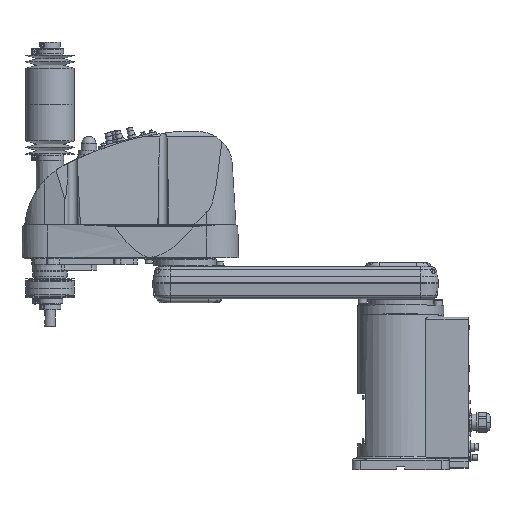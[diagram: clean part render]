
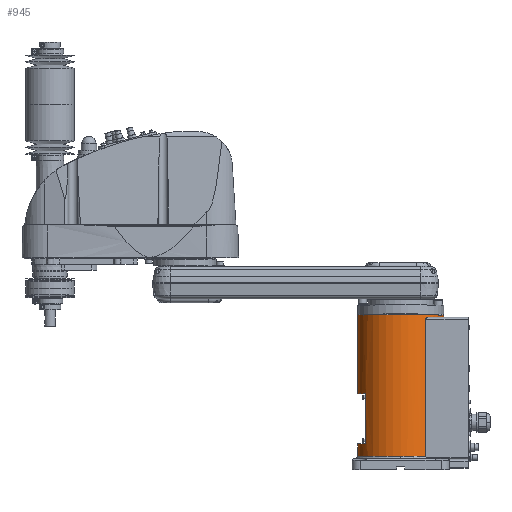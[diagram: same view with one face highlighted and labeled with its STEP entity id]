
A CAD part, top view. The second image highlights one B-rep face of the part: STEP entity #945.
In plain terms, the highlighted cylindrical face has radius 80 mm (diameter 160 mm), a partial arc.
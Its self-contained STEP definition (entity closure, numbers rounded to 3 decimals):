
#945 = ADVANCED_FACE( '', ( #3331 ), #3332, .T. );
#3331 = FACE_OUTER_BOUND( '', #7133, .T. );
#3332 = CYLINDRICAL_SURFACE( '', #7134, 80. );
#7133 = EDGE_LOOP( '', ( #14014, #14015, #14016, #14017, #14018, #14019, #14020, #14021, #14022, #14023, #14024, #14025 ) );
#7134 = AXIS2_PLACEMENT_3D( '', #14026, #14027, #14028 );
#14014 = ORIENTED_EDGE( '', *, *, #23689, .T. );
#14015 = ORIENTED_EDGE( '', *, *, #25007, .F. );
#14016 = ORIENTED_EDGE( '', *, *, #23699, .T. );
#14017 = ORIENTED_EDGE( '', *, *, #24976, .T. );
#14018 = ORIENTED_EDGE( '', *, *, #24978, .T. );
#14019 = ORIENTED_EDGE( '', *, *, #24979, .T. );
#14020 = ORIENTED_EDGE( '', *, *, #23695, .T. );
#14021 = ORIENTED_EDGE( '', *, *, #23707, .T. );
#14022 = ORIENTED_EDGE( '', *, *, #23704, .T. );
#14023 = ORIENTED_EDGE( '', *, *, #24830, .T. );
#14024 = ORIENTED_EDGE( '', *, *, #24827, .T. );
#14025 = ORIENTED_EDGE( '', *, *, #24824, .T. );
#14026 = CARTESIAN_POINT( '', ( 0., 155.75, 0. ) );
#14027 = DIRECTION( '', ( 0., -1., 0. ) );
#14028 = DIRECTION( '', ( 1., 0., 0. ) );
#23689 = EDGE_CURVE( '', #28010, #28002, #28011, .T. );
#23695 = EDGE_CURVE( '', #28022, #28020, #28023, .T. );
#23699 = EDGE_CURVE( '', #28005, #28028, #28030, .T. );
#23704 = EDGE_CURVE( '', #28031, #28038, #28040, .T. );
#23707 = EDGE_CURVE( '', #28020, #28031, #28044, .T. );
#24824 = EDGE_CURVE( '', #29909, #28010, #29910, .T. );
#24827 = EDGE_CURVE( '', #29914, #29909, #29915, .T. );
#24830 = EDGE_CURVE( '', #28038, #29914, #29919, .T. );
#24976 = EDGE_CURVE( '', #28028, #30148, #30150, .T. );
#24978 = EDGE_CURVE( '', #30148, #30151, #30153, .T. );
#24979 = EDGE_CURVE( '', #30151, #28022, #30154, .T. );
#25007 = EDGE_CURVE( '', #28005, #28002, #30197, .T. );
#28002 = VERTEX_POINT( '', #35065 );
#28005 = VERTEX_POINT( '', #35069 );
#28010 = VERTEX_POINT( '', #35075 );
#28011 = LINE( '', #35076, #35077 );
#28020 = VERTEX_POINT( '', #35102 );
#28022 = VERTEX_POINT( '', #35104 );
#28023 = LINE( '', #35105, #35106 );
#28028 = VERTEX_POINT( '', #35112 );
#28030 = LINE( '', #35114, #35115 );
#28031 = VERTEX_POINT( '', #35116 );
#28038 = VERTEX_POINT( '', #35132 );
#28040 = CIRCLE( '', #35147, 80. );
#28044 = CIRCLE( '', #35151, 80. );
#29909 = VERTEX_POINT( '', #37681 );
#29910 = CIRCLE( '', #37682, 80. );
#29914 = VERTEX_POINT( '', #37688 );
#29915 = B_SPLINE_CURVE_WITH_KNOTS( '', 3, ( #37689, #37690, #37691, #37692, #37693, #37694, #37695, #37696, #37697, #37698, #37699, #37700, #37701, #37702, #37703, #37704 ), .UNSPECIFIED., .F., .F., ( 4, 2, 2, 2, 2, 2, 2, 4 ), ( 0., 0.565, 1.13, 1.695, 2.26, 4.16, 5.11, 6.06 ), .UNSPECIFIED. );
#29919 = LINE( '', #37709, #37710 );
#30148 = VERTEX_POINT( '', #38082 );
#30150 = CIRCLE( '', #38085, 80. );
#30151 = VERTEX_POINT( '', #38086 );
#30153 = LINE( '', #38089, #38090 );
#30154 = CIRCLE( '', #38091, 80. );
#30197 = CIRCLE( '', #38150, 80. );
#35065 = CARTESIAN_POINT( '', ( 80., 286.5, 0. ) );
#35069 = CARTESIAN_POINT( '', ( -80., 286.5, 0. ) );
#35075 = CARTESIAN_POINT( '', ( 80., 282., 0. ) );
#35076 = CARTESIAN_POINT( '', ( 80., 155.75, 0. ) );
#35077 = VECTOR( '', #47913, 1. );
#35102 = CARTESIAN_POINT( '', ( -80., 25., 0. ) );
#35104 = CARTESIAN_POINT( '', ( -80., 47.5, 0. ) );
#35105 = CARTESIAN_POINT( '', ( -80., 155.75, 0. ) );
#35106 = VECTOR( '', #47924, 1. );
#35112 = CARTESIAN_POINT( '', ( -80., 140.5, 0. ) );
#35114 = CARTESIAN_POINT( '', ( -80., 155.75, 0. ) );
#35115 = VECTOR( '', #47932, 1. );
#35116 = CARTESIAN_POINT( '', ( 0., 25., 80. ) );
#35132 = CARTESIAN_POINT( '', ( 46.637, 25., 65. ) );
#35147 = AXIS2_PLACEMENT_3D( '', #47939, #47940, #47941 );
#35151 = AXIS2_PLACEMENT_3D( '', #47948, #47949, #47950 );
#37681 = CARTESIAN_POINT( '', ( 50.557, 282., 62. ) );
#37682 = AXIS2_PLACEMENT_3D( '', #50007, #50008, #50009 );
#37688 = CARTESIAN_POINT( '', ( 46.637, 279., 65. ) );
#37689 = CARTESIAN_POINT( '', ( 46.637, 279., 65. ) );
#37690 = CARTESIAN_POINT( '', ( 46.637, 279.188, 65. ) );
#37691 = CARTESIAN_POINT( '', ( 46.662, 279.376, 64.982 ) );
#37692 = CARTESIAN_POINT( '', ( 46.758, 279.739, 64.913 ) );
#37693 = CARTESIAN_POINT( '', ( 46.828, 279.915, 64.863 ) );
#37694 = CARTESIAN_POINT( '', ( 47.002, 280.242, 64.736 ) );
#37695 = CARTESIAN_POINT( '', ( 47.106, 280.395, 64.661 ) );
#37696 = CARTESIAN_POINT( '', ( 47.333, 280.673, 64.495 ) );
#37697 = CARTESIAN_POINT( '', ( 47.455, 280.799, 64.405 ) );
#37698 = CARTESIAN_POINT( '', ( 47.991, 281.279, 64.009 ) );
#37699 = CARTESIAN_POINT( '', ( 48.491, 281.555, 63.632 ) );
#37700 = CARTESIAN_POINT( '', ( 49.269, 281.826, 63.029 ) );
#37701 = CARTESIAN_POINT( '', ( 49.533, 281.893, 62.822 ) );
#37702 = CARTESIAN_POINT( '', ( 50.054, 281.98, 62.407 ) );
#37703 = CARTESIAN_POINT( '', ( 50.312, 282., 62.2 ) );
#37704 = CARTESIAN_POINT( '', ( 50.557, 282., 62. ) );
#37709 = CARTESIAN_POINT( '', ( 46.637, 152., 65. ) );
#37710 = VECTOR( '', #50016, 1. );
#38082 = CARTESIAN_POINT( '', ( -65., 140.5, 46.637 ) );
#38085 = AXIS2_PLACEMENT_3D( '', #50205, #50206, #50207 );
#38086 = CARTESIAN_POINT( '', ( -65., 47.5, 46.637 ) );
#38089 = CARTESIAN_POINT( '', ( -65., 94., 46.637 ) );
#38090 = VECTOR( '', #50209, 1. );
#38091 = AXIS2_PLACEMENT_3D( '', #50210, #50211, #50212 );
#38150 = AXIS2_PLACEMENT_3D( '', #50262, #50263, #50264 );
#47913 = DIRECTION( '', ( 0., 1., 0. ) );
#47924 = DIRECTION( '', ( 0., -1., 0. ) );
#47932 = DIRECTION( '', ( 0., -1., 0. ) );
#47939 = CARTESIAN_POINT( '', ( 0., 25., 0. ) );
#47940 = DIRECTION( '', ( 0., 1., 0. ) );
#47941 = DIRECTION( '', ( 1., 0., 0. ) );
#47948 = CARTESIAN_POINT( '', ( 0., 25., 0. ) );
#47949 = DIRECTION( '', ( 0., 1., 0. ) );
#47950 = DIRECTION( '', ( 1., 0., 0. ) );
#50007 = CARTESIAN_POINT( '', ( 0., 282., 0. ) );
#50008 = DIRECTION( '', ( 0., 1., 0. ) );
#50009 = DIRECTION( '', ( 1., 0., 0. ) );
#50016 = DIRECTION( '', ( 0., 1., 0. ) );
#50205 = CARTESIAN_POINT( '', ( 0., 140.5, 0. ) );
#50206 = DIRECTION( '', ( 0., 1., 0. ) );
#50207 = DIRECTION( '', ( 1., 0., 0. ) );
#50209 = DIRECTION( '', ( 0., -1., 0. ) );
#50210 = CARTESIAN_POINT( '', ( 0., 47.5, 0. ) );
#50211 = DIRECTION( '', ( 0., -1., 0. ) );
#50212 = DIRECTION( '', ( 1., 0., 0. ) );
#50262 = CARTESIAN_POINT( '', ( 0., 286.5, 0. ) );
#50263 = DIRECTION( '', ( 0., 1., 0. ) );
#50264 = DIRECTION( '', ( 1., 0., 0. ) );
